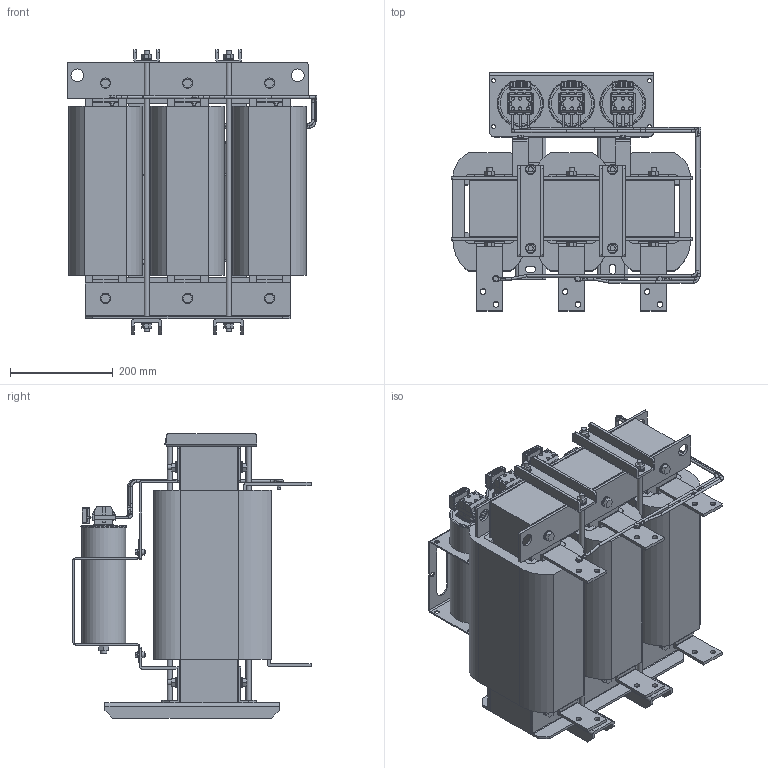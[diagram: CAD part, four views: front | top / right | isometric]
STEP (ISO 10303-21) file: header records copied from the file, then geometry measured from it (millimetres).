
FILE_DESCRIPTION (( 'STEP AP203' ), '1' );
FILE_NAME ('蔓躅漤铋 耔眢耥 翳朦蝠 _ ISINOF-280_531-4.STEP', '2026-07-21T05:57:42', ( '' ), ( '' ), 'SwSTEP 2.0', 'SolidWorks 2021', '' );
FILE_SCHEMA (( 'CONFIG_CONTROL_DESIGN' ));
Length unit declared in the file: millimetre
Products named in the file (196): 280KW淏玾疏薦疏萇蕨ん_37; 280KW淏玾疏薦疏萇蕨ん_112; 280KW淏玾疏薦疏萇蕨ん_173; 280KW淏玾疏薦疏萇蕨ん_14; 280KW淏玾疏薦疏萇蕨ん_73; 280KW淏玾疏薦疏萇蕨ん_191; 280KW淏玾疏薦疏萇蕨ん_87; 280KW淏玾疏薦疏萇蕨ん_151; 280KW淏玾疏薦疏萇蕨ん_74; 280KW淏玾疏薦疏萇蕨ん_13; 280KW淏玾疏薦疏萇蕨ん_9; 280KW淏玾疏薦疏萇蕨ん_147; 280KW淏玾疏薦疏萇蕨ん_172; 280KW淏玾疏薦疏萇蕨ん_33; 280KW淏玾疏薦疏萇蕨ん_120; 280KW淏玾疏薦疏萇蕨ん_139; 280KW淏玾疏薦疏萇蕨ん_21; 280KW淏玾疏薦疏萇蕨ん_133; 280KW淏玾疏薦疏萇蕨ん_181; 280KW淏玾疏薦疏萇蕨ん_47; 280KW淏玾疏薦疏萇蕨ん_3; 280KW淏玾疏薦疏萇蕨ん_41; 280KW淏玾疏薦疏萇蕨ん_50; 280KW淏玾疏薦疏萇蕨ん_179; 280KW淏玾疏薦疏萇蕨ん_5; 280KW淏玾疏薦疏萇蕨ん_157; 280KW淏玾疏薦疏萇蕨ん_122; 280KW淏玾疏薦疏萇蕨ん_89; 280KW淏玾疏薦疏萇蕨ん_124; 280KW淏玾疏薦疏萇蕨ん_153; 280KW淏玾疏薦疏萇蕨ん_169; 280KW淏玾疏薦疏萇蕨ん_146; 280KW淏玾疏薦疏萇蕨ん_100; 280KW淏玾疏薦疏萇蕨ん_77; 280KW淏玾疏薦疏萇蕨ん_137; 280KW淏玾疏薦疏萇蕨ん_96; 280KW淏玾疏薦疏萇蕨ん_59; 280KW淏玾疏薦疏萇蕨ん_42; 280KW淏玾疏薦疏萇蕨ん_80; 280KW淏玾疏薦疏萇蕨ん_132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
Assembly tree (195 placements, depth 2):
  蔓躅漤铋 耔眢耥 翳朦蝠 _ ISINOF-280_531-4
    280KW淏玾疏薦疏萇蕨ん_68
    280KW淏玾疏薦疏萇蕨ん_32
    280KW淏玾疏薦疏萇蕨ん_25
    280KW淏玾疏薦疏萇蕨ん_174
    280KW淏玾疏薦疏萇蕨ん_3
    280KW淏玾疏薦疏萇蕨ん_58
    280KW淏玾疏薦疏萇蕨ん_90
    280KW淏玾疏薦疏萇蕨ん_61
    280KW淏玾疏薦疏萇蕨ん_24
    280KW淏玾疏薦疏萇蕨ん_14
    280KW淏玾疏薦疏萇蕨ん_70
    280KW淏玾疏薦疏萇蕨ん_26
    280KW淏玾疏薦疏萇蕨ん_185
    280KW淏玾疏薦疏萇蕨ん_9
    280KW淏玾疏薦疏萇蕨ん_132
    280KW淏玾疏薦疏萇蕨ん_141
    280KW淏玾疏薦疏萇蕨ん_192
    280KW淏玾疏薦疏萇蕨ん_7
    280KW淏玾疏薦疏萇蕨ん_11
    280KW淏玾疏薦疏萇蕨ん_158
    280KW淏玾疏薦疏萇蕨ん_67
    280KW淏玾疏薦疏萇蕨ん_133
    280KW淏玾疏薦疏萇蕨ん_19
    280KW淏玾疏薦疏萇蕨ん_63
    280KW淏玾疏薦疏萇蕨ん_74
    280KW淏玾疏薦疏萇蕨ん_172
    280KW淏玾疏薦疏萇蕨ん_111
    280KW淏玾疏薦疏萇蕨ん_110
    280KW淏玾疏薦疏萇蕨ん_96
    280KW淏玾疏薦疏萇蕨ん_1
    280KW淏玾疏薦疏萇蕨ん_27
    280KW淏玾疏薦疏萇蕨ん_78
    280KW淏玾疏薦疏萇蕨ん_160
    280KW淏玾疏薦疏萇蕨ん_194
    280KW淏玾疏薦疏萇蕨ん_156
    280KW淏玾疏薦疏萇蕨ん_98
    280KW淏玾疏薦疏萇蕨ん_157
    280KW淏玾疏薦疏萇蕨ん_42
    280KW淏玾疏薦疏萇蕨ん_108
    280KW淏玾疏薦疏萇蕨ん_154
    280KW淏玾疏薦疏萇蕨ん_190
    280KW淏玾疏薦疏萇蕨ん_62
    280KW淏玾疏薦疏萇蕨ん_124
    280KW淏玾疏薦疏萇蕨ん_152
    280KW淏玾疏薦疏萇蕨ん_13
    280KW淏玾疏薦疏萇蕨ん_104
    280KW淏玾疏薦疏萇蕨ん_41
    280KW淏玾疏薦疏萇蕨ん_120
    280KW淏玾疏薦疏萇蕨ん_87
    280KW淏玾疏薦疏萇蕨ん_31
    280KW淏玾疏薦疏萇蕨ん_101
    280KW淏玾疏薦疏萇蕨ん_76
    280KW淏玾疏薦疏萇蕨ん_50
    280KW淏玾疏薦疏萇蕨ん_75
    280KW淏玾疏薦疏萇蕨ん_33
    280KW淏玾疏薦疏萇蕨ん_193
    280KW淏玾疏薦疏萇蕨ん_168
    280KW淏玾疏薦疏萇蕨ん_162
    280KW淏玾疏薦疏萇蕨ん_45
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Bounding box: 487.29 x 464.5 x 554.95 mm (x, y, z)
Volume: 41575512.7 mm3; surface area: 4087958.8 mm2
Topology: 195 solids, 195 shells, 2351 faces, 5787 edges, 3833 vertices
Faces by surface type: plane 1631, cylinder 642, bspline 42, torus 33, cone 3
Full cylindrical faces by diameter (mm): 4.8 x3, 5 x55, 6 x12, 6.3 x36, 6.4 x3, 7 x3, 8 x8, 9.6 x6, 10 x12, 11 x16, 12 x7, 13 x3, 15.588 x14, 20 x44, 24 x3, 25 x4, 78.861 x3, 86 x3, 89 x3, 90 x3
Entity records: 92434 total; most frequent: CARTESIAN_POINT 15897, DIRECTION 11316, ORIENTED_EDGE 10976, EDGE_CURVE 5488, LINE 4076, VECTOR 4076, VERTEX_POINT 3811, AXIS2_PLACEMENT_3D 3620
